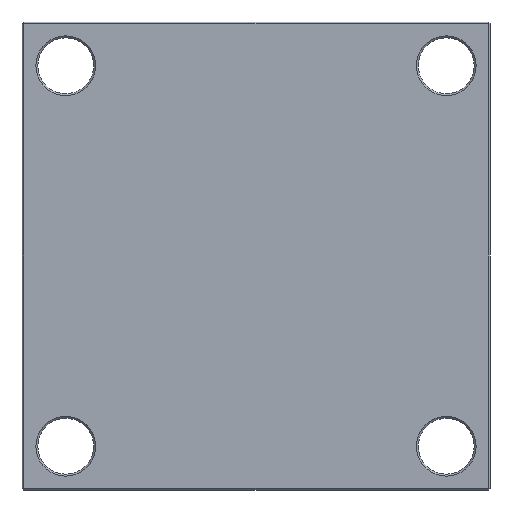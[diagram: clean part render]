
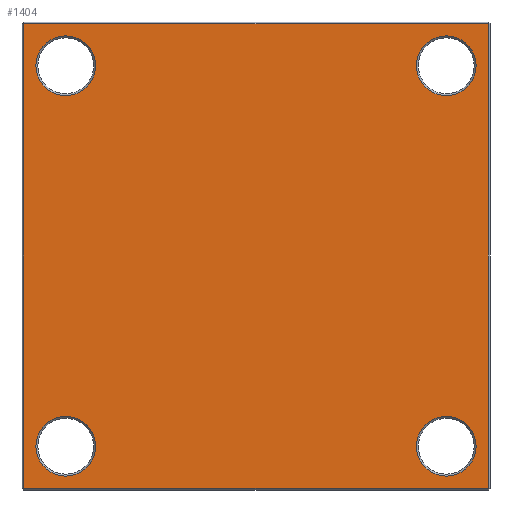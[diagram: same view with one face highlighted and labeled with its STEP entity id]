
A CAD part, front view. The second image highlights one B-rep face of the part: STEP entity #1404.
In plain terms, the highlighted planar face has unit normal (0, -1, 0).
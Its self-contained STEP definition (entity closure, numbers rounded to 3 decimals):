
#44 = CARTESIAN_POINT ( 'NONE',  ( -100., 0., 115.7 ) ) ;
#62 = CARTESIAN_POINT ( 'NONE',  ( -100., 0., -115.7 ) ) ;
#75 = FACE_OUTER_BOUND ( 'NONE', #234, .T. ) ;
#91 = VERTEX_POINT ( 'NONE', #1064 ) ;
#108 = AXIS2_PLACEMENT_3D ( 'NONE', #1889, #1913, #1905 ) ;
#128 = CARTESIAN_POINT ( 'NONE',  ( -100., 0., 100. ) ) ;
#156 = ORIENTED_EDGE ( 'NONE', *, *, #1804, .T. ) ;
#161 = EDGE_CURVE ( 'NONE', #1831, #467, #623, .T. ) ;
#185 = CARTESIAN_POINT ( 'NONE',  ( 122., 0., 0. ) ) ;
#195 = VERTEX_POINT ( 'NONE', #1196 ) ;
#234 = EDGE_LOOP ( 'NONE', ( #1747, #1703, #156, #1630 ) ) ;
#247 = EDGE_CURVE ( 'NONE', #1619, #91, #785, .T. ) ;
#267 = CIRCLE ( 'NONE', #108, 15.7 ) ;
#268 = VERTEX_POINT ( 'NONE', #1688 ) ;
#332 = CARTESIAN_POINT ( 'NONE',  ( 100., 0., -115.7 ) ) ;
#337 = VECTOR ( 'NONE', #1222, 1000. ) ;
#361 = FACE_BOUND ( 'NONE', #543, .T. ) ;
#362 = DIRECTION ( 'NONE',  ( 0., 0., 1. ) ) ;
#374 = DIRECTION ( 'NONE',  ( 0., 1., 0. ) ) ;
#379 = CARTESIAN_POINT ( 'NONE',  ( -100., 0., -100. ) ) ;
#403 = CARTESIAN_POINT ( 'NONE',  ( 100., 0., 115.7 ) ) ;
#421 = FACE_BOUND ( 'NONE', #1020, .T. ) ;
#436 = DIRECTION ( 'NONE',  ( 0., 1., 0. ) ) ;
#448 = CIRCLE ( 'NONE', #775, 15.7 ) ;
#452 = ORIENTED_EDGE ( 'NONE', *, *, #1247, .T. ) ;
#467 = VERTEX_POINT ( 'NONE', #1541 ) ;
#470 = EDGE_CURVE ( 'NONE', #268, #2180, #448, .T. ) ;
#471 = CARTESIAN_POINT ( 'NONE',  ( 122., 0., -122. ) ) ;
#472 = ORIENTED_EDGE ( 'NONE', *, *, #161, .T. ) ;
#543 = EDGE_LOOP ( 'NONE', ( #906, #2159 ) ) ;
#550 = DIRECTION ( 'NONE',  ( 0., 0., 1. ) ) ;
#594 = CIRCLE ( 'NONE', #923, 15.7 ) ;
#614 = DIRECTION ( 'NONE',  ( -1., 0., 0. ) ) ;
#623 = CIRCLE ( 'NONE', #1410, 15.7 ) ;
#662 = DIRECTION ( 'NONE',  ( 0., 1., 0. ) ) ;
#687 = ORIENTED_EDGE ( 'NONE', *, *, #470, .T. ) ;
#719 = CARTESIAN_POINT ( 'NONE',  ( 100., 0., -100. ) ) ;
#738 = FACE_BOUND ( 'NONE', #2024, .T. ) ;
#745 = CARTESIAN_POINT ( 'NONE',  ( 0., 0., 122. ) ) ;
#763 = LINE ( 'NONE', #1237, #337 ) ;
#775 = AXIS2_PLACEMENT_3D ( 'NONE', #1238, #1227, #1223 ) ;
#785 = CIRCLE ( 'NONE', #1764, 15.7 ) ;
#806 = ORIENTED_EDGE ( 'NONE', *, *, #956, .T. ) ;
#836 = VERTEX_POINT ( 'NONE', #1348 ) ;
#852 = VECTOR ( 'NONE', #974, 1000. ) ;
#871 = CARTESIAN_POINT ( 'NONE',  ( 100., 0., -100. ) ) ;
#906 = ORIENTED_EDGE ( 'NONE', *, *, #1186, .T. ) ;
#919 = DIRECTION ( 'NONE',  ( 0., 1., 0. ) ) ;
#920 = LINE ( 'NONE', #185, #852 ) ;
#923 = AXIS2_PLACEMENT_3D ( 'NONE', #379, #374, #550 ) ;
#956 = EDGE_CURVE ( 'NONE', #1018, #1401, #594, .T. ) ;
#962 = EDGE_CURVE ( 'NONE', #467, #1831, #1871, .T. ) ;
#974 = DIRECTION ( 'NONE',  ( 0., 0., 1. ) ) ;
#994 = AXIS2_PLACEMENT_3D ( 'NONE', #128, #436, #1835 ) ;
#1018 = VERTEX_POINT ( 'NONE', #62 ) ;
#1020 = EDGE_LOOP ( 'NONE', ( #687, #1159 ) ) ;
#1057 = DIRECTION ( 'NONE',  ( 0., 0., 1. ) ) ;
#1064 = CARTESIAN_POINT ( 'NONE',  ( -100., 0., 84.3 ) ) ;
#1086 = ORIENTED_EDGE ( 'NONE', *, *, #962, .T. ) ;
#1110 = AXIS2_PLACEMENT_3D ( 'NONE', #871, #919, #362 ) ;
#1159 = ORIENTED_EDGE ( 'NONE', *, *, #1455, .T. ) ;
#1180 = VERTEX_POINT ( 'NONE', #471 ) ;
#1186 = EDGE_CURVE ( 'NONE', #91, #1619, #1652, .T. ) ;
#1191 = CARTESIAN_POINT ( 'NONE',  ( -100., 0., 100. ) ) ;
#1196 = CARTESIAN_POINT ( 'NONE',  ( -122., 0., -122. ) ) ;
#1222 = DIRECTION ( 'NONE',  ( 1., 0., 0. ) ) ;
#1223 = DIRECTION ( 'NONE',  ( 0., 0., 1. ) ) ;
#1227 = DIRECTION ( 'NONE',  ( 0., 1., 0. ) ) ;
#1237 = CARTESIAN_POINT ( 'NONE',  ( 0., 0., -122. ) ) ;
#1238 = CARTESIAN_POINT ( 'NONE',  ( 100., 0., 100. ) ) ;
#1247 = EDGE_CURVE ( 'NONE', #1401, #1018, #1902, .T. ) ;
#1348 = CARTESIAN_POINT ( 'NONE',  ( 122., 0., 122. ) ) ;
#1349 = DIRECTION ( 'NONE',  ( 0., 0., 1. ) ) ;
#1356 = CARTESIAN_POINT ( 'NONE',  ( -122., 0., 122. ) ) ;
#1378 = AXIS2_PLACEMENT_3D ( 'NONE', #2022, #2007, #1996 ) ;
#1400 = AXIS2_PLACEMENT_3D ( 'NONE', #1510, #1405, #1349 ) ;
#1401 = VERTEX_POINT ( 'NONE', #1756 ) ;
#1404 = ADVANCED_FACE ( 'NONE', ( #1627, #738, #421, #361, #75 ), #1596, .F. ) ;
#1405 = DIRECTION ( 'NONE',  ( 0., 1., 0. ) ) ;
#1410 = AXIS2_PLACEMENT_3D ( 'NONE', #719, #662, #2073 ) ;
#1455 = EDGE_CURVE ( 'NONE', #2180, #268, #267, .T. ) ;
#1510 = CARTESIAN_POINT ( 'NONE',  ( 0., 0., 0. ) ) ;
#1529 = VERTEX_POINT ( 'NONE', #1356 ) ;
#1541 = CARTESIAN_POINT ( 'NONE',  ( 100., 0., -84.3 ) ) ;
#1583 = LINE ( 'NONE', #745, #2102 ) ;
#1596 = PLANE ( 'NONE',  #1400 ) ;
#1619 = VERTEX_POINT ( 'NONE', #44 ) ;
#1627 = FACE_BOUND ( 'NONE', #1801, .T. ) ;
#1630 = ORIENTED_EDGE ( 'NONE', *, *, #1635, .T. ) ;
#1635 = EDGE_CURVE ( 'NONE', #195, #1180, #763, .T. ) ;
#1652 = CIRCLE ( 'NONE', #994, 15.7 ) ;
#1688 = CARTESIAN_POINT ( 'NONE',  ( 100., 0., 84.3 ) ) ;
#1703 = ORIENTED_EDGE ( 'NONE', *, *, #1866, .T. ) ;
#1740 = CARTESIAN_POINT ( 'NONE',  ( -122., 0., 0. ) ) ;
#1742 = VECTOR ( 'NONE', #1827, 1000. ) ;
#1747 = ORIENTED_EDGE ( 'NONE', *, *, #1991, .T. ) ;
#1756 = CARTESIAN_POINT ( 'NONE',  ( -100., 0., -84.3 ) ) ;
#1764 = AXIS2_PLACEMENT_3D ( 'NONE', #1191, #1923, #1057 ) ;
#1801 = EDGE_LOOP ( 'NONE', ( #806, #452 ) ) ;
#1804 = EDGE_CURVE ( 'NONE', #1529, #195, #2156, .T. ) ;
#1827 = DIRECTION ( 'NONE',  ( 0., 0., -1. ) ) ;
#1831 = VERTEX_POINT ( 'NONE', #332 ) ;
#1835 = DIRECTION ( 'NONE',  ( 0., 0., 1. ) ) ;
#1866 = EDGE_CURVE ( 'NONE', #836, #1529, #1583, .T. ) ;
#1871 = CIRCLE ( 'NONE', #1110, 15.7 ) ;
#1889 = CARTESIAN_POINT ( 'NONE',  ( 100., 0., 100. ) ) ;
#1902 = CIRCLE ( 'NONE', #1378, 15.7 ) ;
#1905 = DIRECTION ( 'NONE',  ( 0., 0., 1. ) ) ;
#1913 = DIRECTION ( 'NONE',  ( 0., 1., 0. ) ) ;
#1923 = DIRECTION ( 'NONE',  ( 0., 1., 0. ) ) ;
#1991 = EDGE_CURVE ( 'NONE', #1180, #836, #920, .T. ) ;
#1996 = DIRECTION ( 'NONE',  ( 0., 0., 1. ) ) ;
#2007 = DIRECTION ( 'NONE',  ( 0., 1., 0. ) ) ;
#2022 = CARTESIAN_POINT ( 'NONE',  ( -100., 0., -100. ) ) ;
#2024 = EDGE_LOOP ( 'NONE', ( #472, #1086 ) ) ;
#2073 = DIRECTION ( 'NONE',  ( 0., 0., 1. ) ) ;
#2102 = VECTOR ( 'NONE', #614, 1000. ) ;
#2156 = LINE ( 'NONE', #1740, #1742 ) ;
#2159 = ORIENTED_EDGE ( 'NONE', *, *, #247, .T. ) ;
#2180 = VERTEX_POINT ( 'NONE', #403 ) ;
